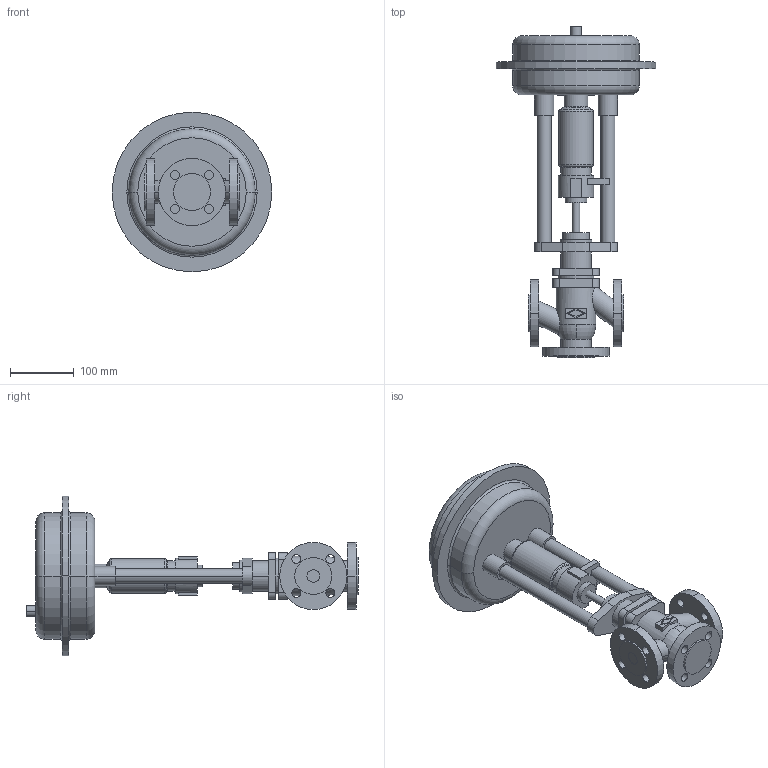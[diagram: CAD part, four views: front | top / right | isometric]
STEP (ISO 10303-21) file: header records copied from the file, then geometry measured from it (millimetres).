
FILE_DESCRIPTION(('OneSpaceDesigner STEP Export'),'2;1');
FILE_NAME('c000000402.stp','2006-09-13T12:32:09',(''),(''),'OneSpace Designer STEP processor for AP214 (Solid Model)','OneSpace Designer 13.20A 18-Aug-2005 (C) CoCreate Software GmbH','');
FILE_SCHEMA(('AUTOMOTIVE_DESIGN { 1 0 10303 214 1 1 1 1 }'));
Length unit declared in the file: millimetre
Products named in the file (2): 1; 2
Bounding box: 250 x 520 x 250 mm (x, y, z)
Volume: 4535359 mm3; surface area: 347023.4 mm2
Topology: 2 solids, 2 shells, 199 faces, 476 edges, 311 vertices
Faces by surface type: cylinder 96, plane 81, torus 18, cone 4
Entity records: 5290 total; most frequent: CARTESIAN_POINT 970, ORIENTED_EDGE 952, DIRECTION 800, EDGE_CURVE 476, VERTEX_POINT 311, AXIS2_PLACEMENT_3D 289, EDGE_LOOP 253, VECTOR 222
